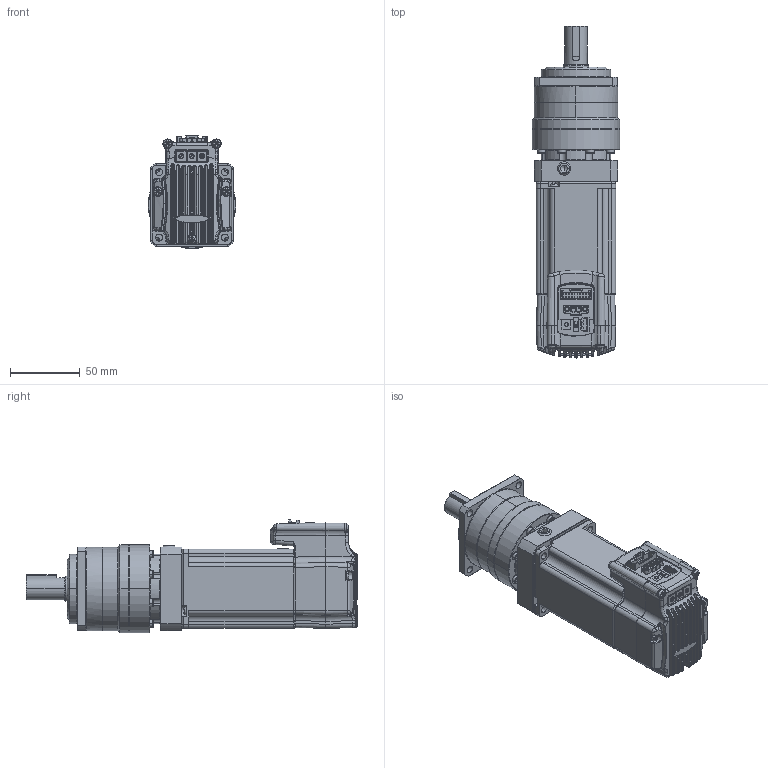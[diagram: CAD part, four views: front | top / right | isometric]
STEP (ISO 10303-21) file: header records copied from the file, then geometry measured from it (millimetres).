
FILE_DESCRIPTION (( 'STEP AP203' ), '1' );
FILE_NAME ('130416 Ezi-SERVO PG-ALL-56L-PN3~10.STEP', '2013-04-17T01:28:48', ( '' ), ( '' ), 'SwSTEP 2.0', 'SolidWorks 2012', '' );
FILE_SCHEMA (( 'CONFIG_CONTROL_DESIGN' ));
Products named in the file (40): 130416 Ezi-SERVO PG-ALL-56L-PN3~10; ST56 1ST; M3 TAPPING SCREW.2_5; M3 TAPPING SCREW.1_5; M3 MACHIN SCREW.3; M3 MACHIN SCREW.2; M3 MACHIN SCREW.1; CASE RR-TYPE B; CASE FRT_4; NAME PLATE_4; CONNECTOR PCB_4; DISPLAY PCB_4; POWER PARTS.7_4; POWER PARTS.6_4; POWER PARTS.5_4; POWER PARTS.4_4; POWER PARTS.3_4; POWER PARTS.2_4; POWER PARTS.1_4; MAIN PCB.2_4; MAIN PCB.1_4; _X2_D30CD2B8_X0_80_4; _X2_D30CD2B8_X0_79_4; _X2_D30CD2B8_X0_78_4; _X2_D30CD2B8_X0_75_5_2; _X2_D30CD2B8_X0_75_5; _X2_D30CD2B8_X0_73_5_2; _X2_D30CD2B8_X0_73_5; _X2_D30CD2B8_X0_69_4; MSBR_4; UPPER COVER_4; TRM_SRF_4; _X2_D30CD2B8_X0_115; _X2_D30CD2B8_X0_96_6_3; _X2_D30CD2B8_X0_94_6_3; _X2_D30CD2B8_X0_96_6_2; _X2_D30CD2B8_X0_94_6_2; _X2_D30CD2B8_X0_96_6; _X2_D30CD2B8_X0_94_6; F181
Assembly tree (39 placements, depth 2):
  130416 Ezi-SERVO PG-ALL-56L-PN3~10
    F181
    _X2_D30CD2B8_X0_94_6
    _X2_D30CD2B8_X0_96_6
    _X2_D30CD2B8_X0_94_6_2
    _X2_D30CD2B8_X0_96_6_2
    _X2_D30CD2B8_X0_94_6_3
    _X2_D30CD2B8_X0_96_6_3
    _X2_D30CD2B8_X0_115
    TRM_SRF_4
    UPPER COVER_4
    MSBR_4
    _X2_D30CD2B8_X0_69_4
    _X2_D30CD2B8_X0_73_5
    _X2_D30CD2B8_X0_73_5_2
    _X2_D30CD2B8_X0_75_5
    _X2_D30CD2B8_X0_75_5_2
    _X2_D30CD2B8_X0_78_4
    _X2_D30CD2B8_X0_79_4
    _X2_D30CD2B8_X0_80_4
    MAIN PCB.1_4
    MAIN PCB.2_4
    POWER PARTS.1_4
    POWER PARTS.2_4
    POWER PARTS.3_4
    POWER PARTS.4_4
    POWER PARTS.5_4
    POWER PARTS.6_4
    POWER PARTS.7_4
    DISPLAY PCB_4
    CONNECTOR PCB_4
    NAME PLATE_4
    CASE FRT_4
    CASE RR-TYPE B
    M3 MACHIN SCREW.1
    M3 MACHIN SCREW.2
    M3 MACHIN SCREW.3
    M3 TAPPING SCREW.1_5
    M3 TAPPING SCREW.2_5
    ST56 1ST
Bounding box: 63 x 238.5 x 81.43 mm (x, y, z)
Volume: 531093.5 mm3; surface area: 128657.2 mm2
Topology: 37 solids, 39 shells, 3604 faces, 9024 edges, 5525 vertices
Faces by surface type: plane 1575, cylinder 1115, bspline 669, cone 191, torus 54
Entity records: 169412 total; most frequent: CARTESIAN_POINT 87785, ORIENTED_EDGE 17796, DIRECTION 13086, EDGE_CURVE 8920, VERTEX_POINT 5525, AXIS2_PLACEMENT_3D 4395, VECTOR 4296, LINE 4296
